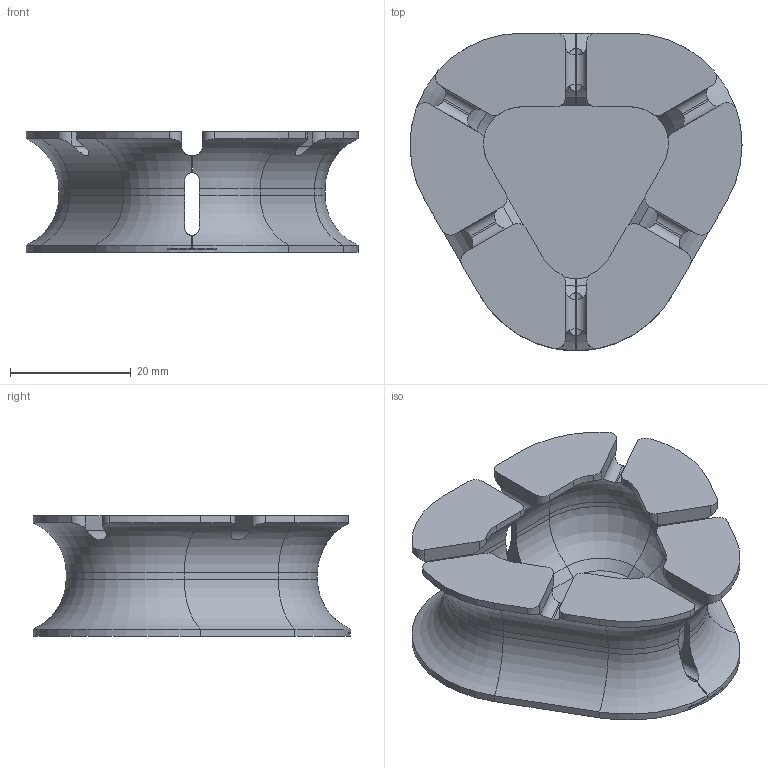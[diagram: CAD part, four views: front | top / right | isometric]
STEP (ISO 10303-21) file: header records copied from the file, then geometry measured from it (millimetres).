
FILE_DESCRIPTION (( 'STEP AP214' ), '1' );
FILE_NAME ('Earbud Case v1-4 LARGE - 3.5mm.STEP', '2018-04-27T23:12:46', ( '' ), ( '' ), 'SwSTEP 2.0', 'SolidWorks 2015', '' );
FILE_SCHEMA (( 'AUTOMOTIVE_DESIGN' ));
Length unit declared in the file: millimetre
Products named in the file (2): Earbud Case v1-4 LARGE - 3.5mm
Bounding box: 55 x 52.59 x 20 mm (x, y, z)
Volume: 12459.1 mm3; surface area: 11358.1 mm2
Topology: 1 solids, 1 shells, 192 faces, 516 edges, 326 vertices
Faces by surface type: cylinder 91, plane 75, torus 21, cone 5
Entity records: 6743 total; most frequent: CARTESIAN_POINT 1952, ORIENTED_EDGE 1032, DIRECTION 973, EDGE_CURVE 516, AXIS2_PLACEMENT_3D 362, VERTEX_POINT 326, VECTOR 249, LINE 249
